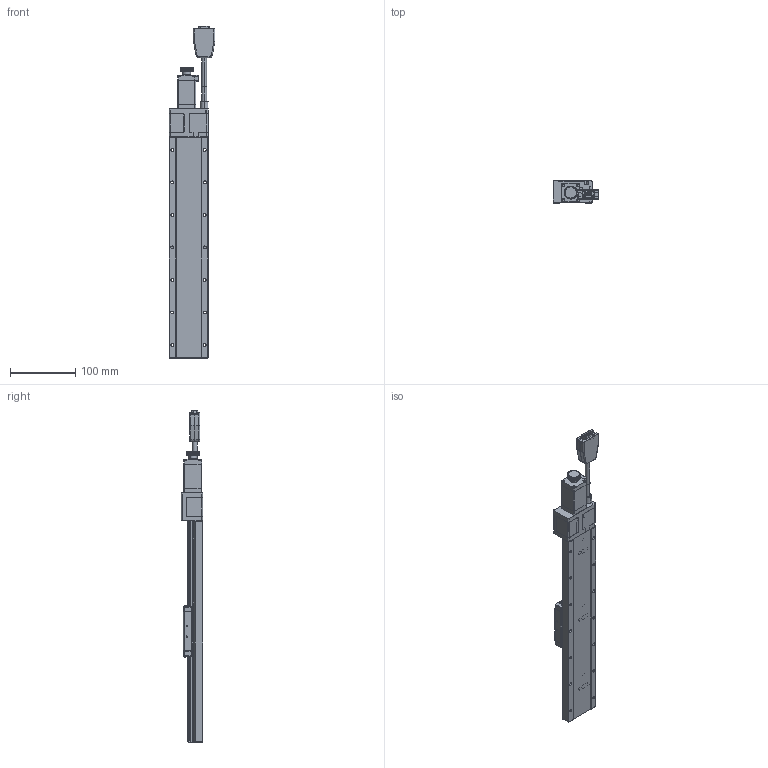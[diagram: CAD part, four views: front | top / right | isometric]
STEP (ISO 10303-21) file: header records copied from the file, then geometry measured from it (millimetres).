
FILE_DESCRIPTION (( 'STEP AP203' ), '1' );
FILE_NAME ('CXN60250.STEP', '2023-11-28T02:21:35', ( '' ), ( '' ), 'SwSTEP 2.0', 'SolidWorks 2019', '' );
FILE_SCHEMA (( 'CONFIG_CONTROL_DESIGN' ));
Products named in the file (3): Group5^CXN60250-S2?N(2023新版)_defeature_GMT; Group4^CXN60250-S2?N(2023新版)_defeature_GMT; CXN60250
Assembly tree (2 placements, depth 2):
  CXN60250
    Group4^CXN60250-S2?N(2023新版)_defeature_GMT
    Group5^CXN60250-S2?N(2023新版)_defeature_GMT
Bounding box: 70.5 x 33.5 x 510.6 mm (x, y, z)
Volume: 39673.6 mm3; surface area: 154090.1 mm2
Topology: 23 solids, 26 shells, 4379 faces, 11252 edges, 6908 vertices
Faces by surface type: plane 1589, cylinder 1356, cone 520, torus 458, bspline 272, sphere 184
Entity records: 145183 total; most frequent: CARTESIAN_POINT 40044, DIRECTION 22286, ORIENTED_EDGE 22126, EDGE_CURVE 11063, AXIS2_PLACEMENT_3D 8572, VERTEX_POINT 6865, LINE 5142, VECTOR 5142
